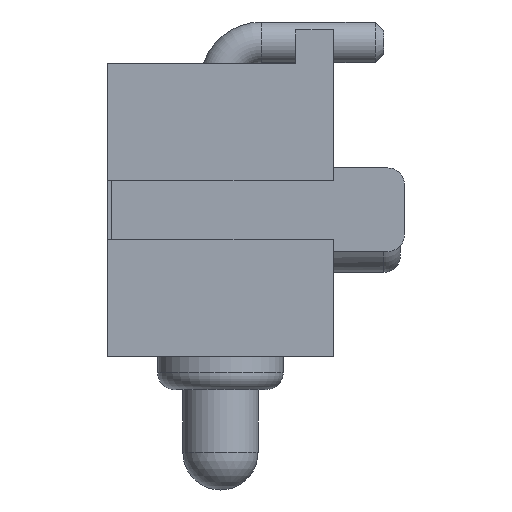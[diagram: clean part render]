
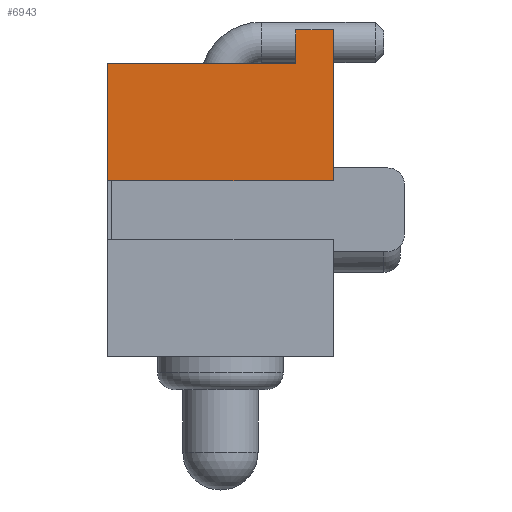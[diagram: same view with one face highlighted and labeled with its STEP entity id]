
A CAD part, left-side view. The second image highlights one B-rep face of the part: STEP entity #6943.
In plain terms, the highlighted planar face has unit normal (-1, 0, 0).
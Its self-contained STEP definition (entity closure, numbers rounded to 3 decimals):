
#493=DIRECTION('',(0.,0.,-1.));
#494=VECTOR('',#493,1.4);
#495=CARTESIAN_POINT('',(-9.25,1.35,3.5));
#496=LINE('',#495,#494);
#639=DIRECTION('',(0.,0.,1.));
#640=VECTOR('',#639,1.8);
#641=CARTESIAN_POINT('',(-9.25,-1.35,2.1));
#642=LINE('',#641,#640);
#1091=DIRECTION('',(0.,1.,0.));
#1092=VECTOR('',#1091,2.7);
#1093=CARTESIAN_POINT('',(-9.25,-1.35,2.1));
#1094=LINE('',#1093,#1092);
#1194=DIRECTION('',(0.,1.,0.));
#1195=VECTOR('',#1194,2.25);
#1196=CARTESIAN_POINT('',(-9.25,-0.9,3.5));
#1197=LINE('',#1196,#1195);
#2731=DIRECTION('',(0.,1.,0.));
#2732=VECTOR('',#2731,0.45);
#2733=CARTESIAN_POINT('',(-9.25,-1.35,3.9));
#2734=LINE('',#2733,#2732);
#2735=DIRECTION('',(0.,0.,-1.));
#2736=VECTOR('',#2735,0.4);
#2737=CARTESIAN_POINT('',(-9.25,-0.9,3.9));
#2738=LINE('',#2737,#2736);
#4399=CARTESIAN_POINT('',(-9.25,1.35,3.5));
#4400=VERTEX_POINT('',#4399);
#4401=CARTESIAN_POINT('',(-9.25,1.35,2.1));
#4402=VERTEX_POINT('',#4401);
#4425=CARTESIAN_POINT('',(-9.25,-1.35,2.1));
#4426=VERTEX_POINT('',#4425);
#4427=CARTESIAN_POINT('',(-9.25,-0.9,3.5));
#4428=VERTEX_POINT('',#4427);
#4429=CARTESIAN_POINT('',(-9.25,-0.9,3.9));
#4430=VERTEX_POINT('',#4429);
#4431=CARTESIAN_POINT('',(-9.25,-1.35,3.9));
#4432=VERTEX_POINT('',#4431);
#6927=CARTESIAN_POINT('',(-9.25,1.35,0.));
#6928=DIRECTION('',(-1.,0.,0.));
#6929=DIRECTION('',(0.,-1.,0.));
#6930=AXIS2_PLACEMENT_3D('',#6927,#6928,#6929);
#6931=PLANE('',#6930);
#6932=ORIENTED_EDGE('',*,*,#6919,.T.);
#6933=ORIENTED_EDGE('',*,*,#6183,.F.);
#6935=ORIENTED_EDGE('',*,*,#6934,.F.);
#6937=ORIENTED_EDGE('',*,*,#6936,.F.);
#6939=ORIENTED_EDGE('',*,*,#6938,.F.);
#6940=ORIENTED_EDGE('',*,*,#6330,.F.);
#6941=EDGE_LOOP('',(#6932,#6933,#6935,#6937,#6939,#6940));
#6942=FACE_OUTER_BOUND('',#6941,.F.);
#6943=ADVANCED_FACE('',(#6942),#6931,.T.);
#6183=EDGE_CURVE('',#4400,#4402,#496,.T.);
#6330=EDGE_CURVE('',#4426,#4432,#642,.T.);
#6919=EDGE_CURVE('',#4426,#4402,#1094,.T.);
#6934=EDGE_CURVE('',#4428,#4400,#1197,.T.);
#6936=EDGE_CURVE('',#4430,#4428,#2738,.T.);
#6938=EDGE_CURVE('',#4432,#4430,#2734,.T.);
